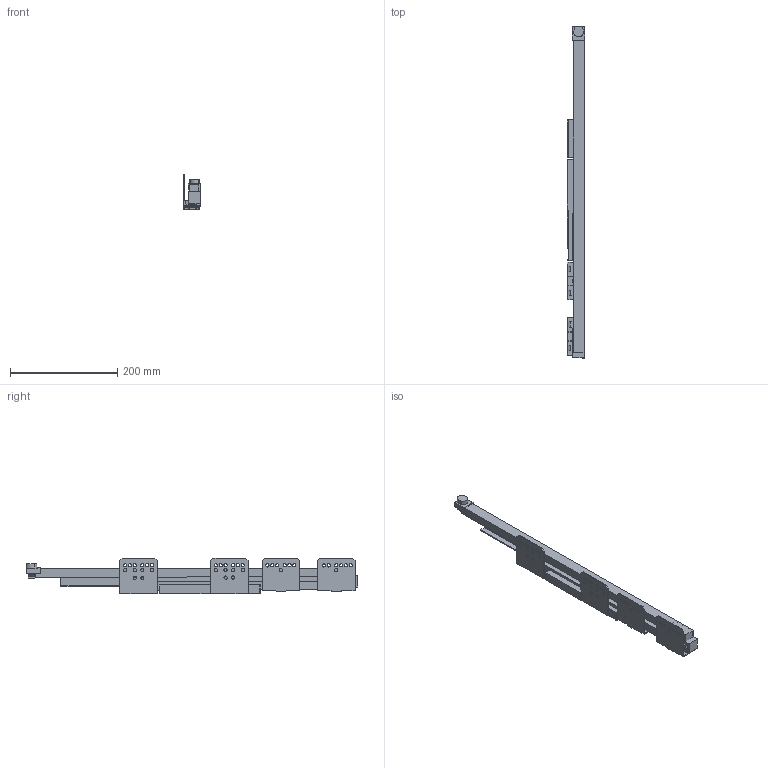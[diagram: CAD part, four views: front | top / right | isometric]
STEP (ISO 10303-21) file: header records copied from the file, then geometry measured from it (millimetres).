
FILE_DESCRIPTION (( 'STEP AP214' ), '1' );
FILE_NAME ('_IMOS Dynamic-XP VA 80kg NL600 LI Tipmatic.step', '2010-07-08T13:27:49', ( 'grass' ), ( '' ), 'SwSTEP 2.0', 'SolidWorks 2010', '' );
FILE_SCHEMA (( 'AUTOMOTIVE_DESIGN' ));
Length unit declared in the file: millimetre
Products named in the file (1): _IMOS Dynamic-XP VA 80kg NL600 LI Tipmatic
Bounding box: 33.14 x 618.02 x 66.67 mm (x, y, z)
Volume: 510312.7 mm3; surface area: 204020.6 mm2
Topology: 10 solids, 10 shells, 280 faces, 772 edges, 514 vertices
Faces by surface type: plane 193, cylinder 87
Entity records: 9171 total; most frequent: CARTESIAN_POINT 1567, ORIENTED_EDGE 1544, DIRECTION 1510, EDGE_CURVE 772, VECTOR 596, LINE 596, VERTEX_POINT 514, AXIS2_PLACEMENT_3D 457
